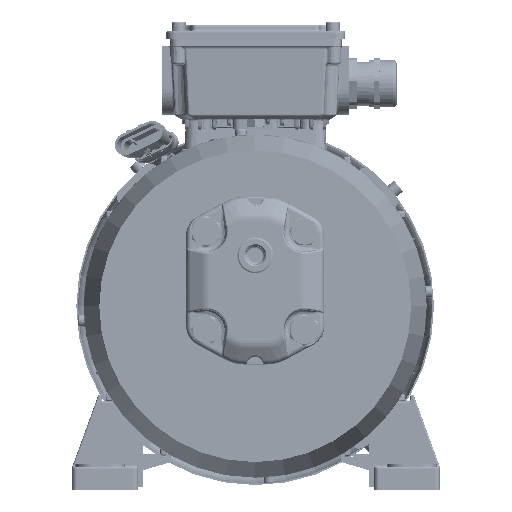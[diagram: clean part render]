
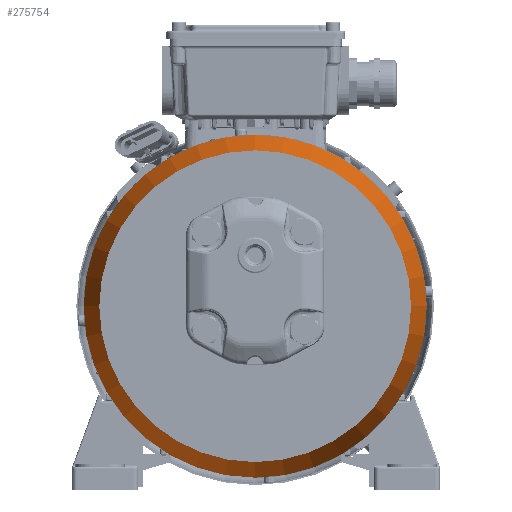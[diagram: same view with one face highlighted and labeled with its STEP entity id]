
A CAD part, left-side view. The second image highlights one B-rep face of the part: STEP entity #275754.
In plain terms, the highlighted conical face has half-angle 20 degrees and reference radius 99.75 mm.
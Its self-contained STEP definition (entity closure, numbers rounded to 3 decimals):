
#726=CONICAL_SURFACE('',#301661,99.75,0.349);
#34452=FACE_OUTER_BOUND('',#50877,.T.);
#50877=EDGE_LOOP('',(#231023,#231024,#231025,#231026));
#61671=CIRCLE('',#296245,95.);
#64390=CIRCLE('',#301660,104.5);
#80481=LINE('',#687632,#99026);
#99026=VECTOR('',#366595,99.75);
#118334=VERTEX_POINT('',#661617);
#123530=VERTEX_POINT('',#687628);
#152202=EDGE_CURVE('',#118334,#118334,#61671,.T.);
#160189=EDGE_CURVE('',#123530,#123530,#64390,.T.);
#160190=EDGE_CURVE('',#123530,#118334,#80481,.T.);
#231023=ORIENTED_EDGE('',*,*,#160189,.F.);
#231024=ORIENTED_EDGE('',*,*,#160190,.T.);
#231025=ORIENTED_EDGE('',*,*,#152202,.T.);
#231026=ORIENTED_EDGE('',*,*,#160190,.F.);
#275754=ADVANCED_FACE('',(#34452),#726,.T.);
#296245=AXIS2_PLACEMENT_3D('',#661618,#350940,#350941);
#301660=AXIS2_PLACEMENT_3D('',#687630,#366591,#366592);
#301661=AXIS2_PLACEMENT_3D('',#687631,#366593,#366594);
#350940=DIRECTION('center_axis',(1.,0.,0.));
#350941=DIRECTION('ref_axis',(0.,1.,0.));
#366591=DIRECTION('center_axis',(1.,0.,0.));
#366592=DIRECTION('ref_axis',(0.,1.,0.));
#366593=DIRECTION('center_axis',(1.,0.,0.));
#366594=DIRECTION('ref_axis',(0.,0.,
1.));
#366595=DIRECTION('',(-0.94,0.,0.342));
#661617=CARTESIAN_POINT('',(-251.5,0.,-95.));
#661618=CARTESIAN_POINT('Origin',(-251.5,0.,0.));
#687628=CARTESIAN_POINT('',(-225.399,0.,-104.5));
#687630=CARTESIAN_POINT('Origin',(-225.399,0.,
0.));
#687631=CARTESIAN_POINT('Origin',(-238.449,0.,
0.));
#687632=CARTESIAN_POINT('',(-238.449,0.,-99.75));
